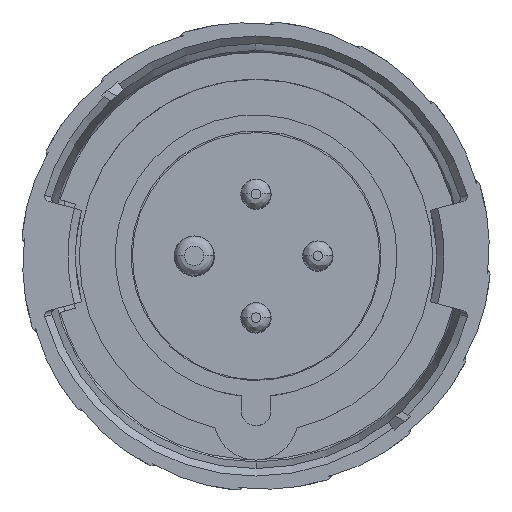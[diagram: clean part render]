
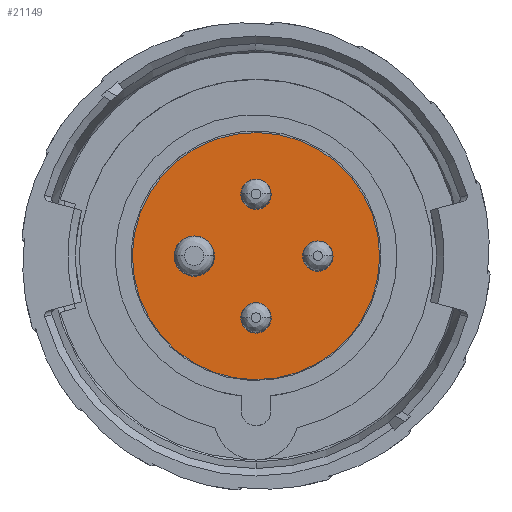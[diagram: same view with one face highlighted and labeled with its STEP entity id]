
A CAD part, top view. The second image highlights one B-rep face of the part: STEP entity #21149.
In plain terms, the highlighted planar face has unit normal (0, 0, 1).
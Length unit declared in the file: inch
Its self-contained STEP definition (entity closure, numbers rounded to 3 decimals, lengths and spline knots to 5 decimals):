
#20558=CARTESIAN_POINT('',(0.,0.,4.47001));
#20559=DIRECTION('',(0.,0.,-1.));
#20560=DIRECTION('',(0.983,-0.182,0.));
#20561=AXIS2_PLACEMENT_3D('',#20558,#20559,#20560);
#20563=CARTESIAN_POINT('',(0.,0.,4.47001));
#20564=DIRECTION('',(0.,0.,-1.));
#20565=DIRECTION('',(-0.983,0.182,0.));
#20566=AXIS2_PLACEMENT_3D('',#20563,#20564,#20565);
#20568=CARTESIAN_POINT('',(0.49213,0.,4.47001));
#20569=DIRECTION('',(0.,0.,1.));
#20570=DIRECTION('',(0.983,-0.182,0.));
#20571=AXIS2_PLACEMENT_3D('',#20568,#20569,#20570);
#20573=CARTESIAN_POINT('',(0.49213,0.,4.47001));
#20574=DIRECTION('',(0.,0.,1.));
#20575=DIRECTION('',(-0.983,0.182,0.));
#20576=AXIS2_PLACEMENT_3D('',#20573,#20574,#20575);
#20578=CARTESIAN_POINT('',(0.,0.49213,4.47001));
#20579=DIRECTION('',(0.,0.,1.));
#20580=DIRECTION('',(0.983,-0.182,0.));
#20581=AXIS2_PLACEMENT_3D('',#20578,#20579,#20580);
#20583=CARTESIAN_POINT('',(0.,0.49213,4.47001));
#20584=DIRECTION('',(0.,0.,1.));
#20585=DIRECTION('',(-0.983,0.182,0.));
#20586=AXIS2_PLACEMENT_3D('',#20583,#20584,#20585);
#20588=CARTESIAN_POINT('',(-0.49213,0.,4.47001));
#20589=DIRECTION('',(0.,0.,1.));
#20590=DIRECTION('',(0.983,-0.182,0.));
#20591=AXIS2_PLACEMENT_3D('',#20588,#20589,#20590);
#20593=CARTESIAN_POINT('',(-0.49213,0.,4.47001));
#20594=DIRECTION('',(0.,0.,1.));
#20595=DIRECTION('',(-0.983,0.182,0.));
#20596=AXIS2_PLACEMENT_3D('',#20593,#20594,#20595);
#20598=CARTESIAN_POINT('',(0.,-0.49213,4.47001));
#20599=DIRECTION('',(0.,0.,1.));
#20600=DIRECTION('',(0.983,-0.182,0.));
#20601=AXIS2_PLACEMENT_3D('',#20598,#20599,#20600);
#20603=CARTESIAN_POINT('',(0.,-0.49213,4.47001));
#20604=DIRECTION('',(0.,0.,1.));
#20605=DIRECTION('',(-0.983,0.182,0.));
#20606=AXIS2_PLACEMENT_3D('',#20603,#20604,#20605);
#20912=CARTESIAN_POINT('',(0.96777,-0.17937,
4.47001));
#20913=VERTEX_POINT('',#20912);
#20914=CARTESIAN_POINT('',(-0.96777,0.17937,
4.47001));
#20915=VERTEX_POINT('',#20914);
#20916=CARTESIAN_POINT('',(0.64987,-0.02924,
4.47001));
#20917=CARTESIAN_POINT('',(0.33438,0.02924,
4.47001));
#20918=VERTEX_POINT('',#20916);
#20919=VERTEX_POINT('',#20917);
#20920=CARTESIAN_POINT('',(0.11904,0.47006,
4.47001));
#20921=CARTESIAN_POINT('',(-0.11904,0.51419,
4.47001));
#20922=VERTEX_POINT('',#20920);
#20923=VERTEX_POINT('',#20921);
#20924=CARTESIAN_POINT('',(-0.37309,-0.02206,
4.47001));
#20925=CARTESIAN_POINT('',(-0.61116,0.02206,
4.47001));
#20926=VERTEX_POINT('',#20924);
#20927=VERTEX_POINT('',#20925);
#20928=CARTESIAN_POINT('',(0.11904,-0.51419,
4.47001));
#20929=CARTESIAN_POINT('',(-0.11904,-0.47006,
4.47001));
#20930=VERTEX_POINT('',#20928);
#20931=VERTEX_POINT('',#20929);
#21116=CARTESIAN_POINT('',(0.,0.,4.47001));
#21117=DIRECTION('',(0.,0.,1.));
#21118=DIRECTION('',(0.983,-0.182,0.));
#21119=AXIS2_PLACEMENT_3D('',#21116,#21117,#21118);
#21120=PLANE('',#21119);
#21121=ORIENTED_EDGE('',*,*,#21111,.T.);
#21122=ORIENTED_EDGE('',*,*,#21095,.T.);
#21123=EDGE_LOOP('',(#21121,#21122));
#21124=FACE_OUTER_BOUND('',#21123,.F.);
#21126=ORIENTED_EDGE('',*,*,#21125,.T.);
#21128=ORIENTED_EDGE('',*,*,#21127,.T.);
#21129=EDGE_LOOP('',(#21126,#21128));
#21130=FACE_BOUND('',#21129,.F.);
#21132=ORIENTED_EDGE('',*,*,#21131,.T.);
#21134=ORIENTED_EDGE('',*,*,#21133,.T.);
#21135=EDGE_LOOP('',(#21132,#21134));
#21136=FACE_BOUND('',#21135,.F.);
#21138=ORIENTED_EDGE('',*,*,#21137,.T.);
#21140=ORIENTED_EDGE('',*,*,#21139,.T.);
#21141=EDGE_LOOP('',(#21138,#21140));
#21142=FACE_BOUND('',#21141,.F.);
#21144=ORIENTED_EDGE('',*,*,#21143,.T.);
#21146=ORIENTED_EDGE('',*,*,#21145,.T.);
#21147=EDGE_LOOP('',(#21144,#21146));
#21148=FACE_BOUND('',#21147,.F.);
#21149=ADVANCED_FACE('',(#21124,#21130,#21136,#21142,#21148),#21120,.T.);
#20562=CIRCLE('',#20561,0.98425);
#20567=CIRCLE('',#20566,0.98425);
#20572=CIRCLE('',#20571,0.16043);
#20577=CIRCLE('',#20576,0.16043);
#20582=CIRCLE('',#20581,0.12106);
#20587=CIRCLE('',#20586,0.12106);
#20592=CIRCLE('',#20591,0.12106);
#20597=CIRCLE('',#20596,0.12106);
#20602=CIRCLE('',#20601,0.12106);
#20607=CIRCLE('',#20606,0.12106);
#21095=EDGE_CURVE('',#20915,#20913,#20567,.T.);
#21111=EDGE_CURVE('',#20913,#20915,#20562,.T.);
#21125=EDGE_CURVE('',#20918,#20919,#20572,.T.);
#21127=EDGE_CURVE('',#20919,#20918,#20577,.T.);
#21131=EDGE_CURVE('',#20922,#20923,#20582,.T.);
#21133=EDGE_CURVE('',#20923,#20922,#20587,.T.);
#21137=EDGE_CURVE('',#20926,#20927,#20592,.T.);
#21139=EDGE_CURVE('',#20927,#20926,#20597,.T.);
#21143=EDGE_CURVE('',#20930,#20931,#20602,.T.);
#21145=EDGE_CURVE('',#20931,#20930,#20607,.T.);
